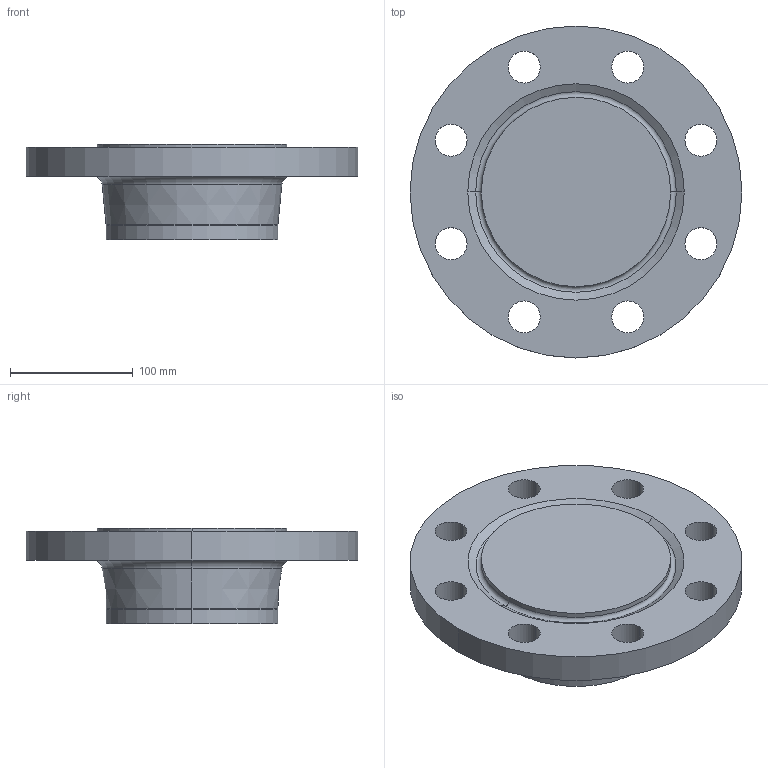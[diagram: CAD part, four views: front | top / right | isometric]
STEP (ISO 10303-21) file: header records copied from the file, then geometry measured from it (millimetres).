
FILE_DESCRIPTION (( 'STEP AP214' ), '1' );
FILE_NAME ('PN40 DN125 Type 21(ii) - Type H Face.STEP', '2019-01-02T00:58:16', ( '' ), ( '' ), 'SwSTEP 2.0', 'SolidWorks 2019', '' );
FILE_SCHEMA (( 'AUTOMOTIVE_DESIGN' ));
Length unit declared in the file: millimetre
Products named in the file (1): PN40 DN125 Type 21(ii) - Type H Face
Bounding box: 270 x 270 x 78 mm (x, y, z)
Volume: 2112919.6 mm3; surface area: 165138.4 mm2
Topology: 1 solids, 1 shells, 36 faces, 86 edges, 54 vertices
Faces by surface type: cylinder 22, torus 6, cone 4, plane 4
Entity records: 1136 total; most frequent: DIRECTION 220, CARTESIAN_POINT 177, ORIENTED_EDGE 172, AXIS2_PLACEMENT_3D 97, EDGE_CURVE 86, CIRCLE 60, EDGE_LOOP 54, VERTEX_POINT 54
